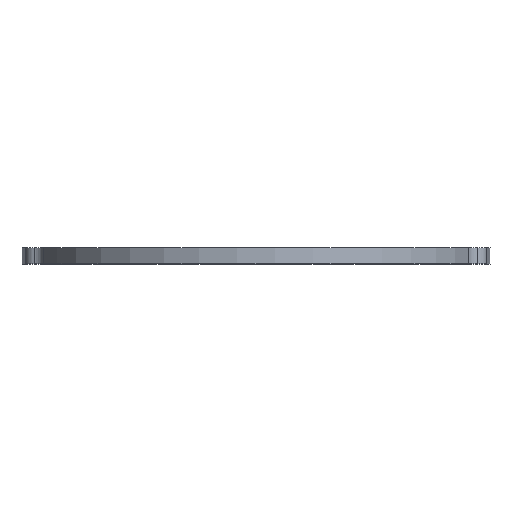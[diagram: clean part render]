
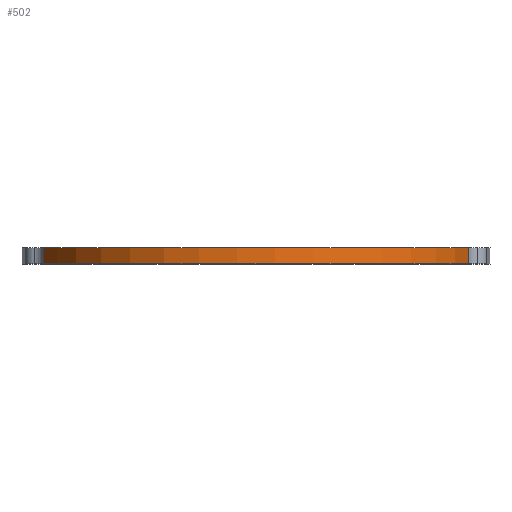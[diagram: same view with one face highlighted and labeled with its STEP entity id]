
A CAD part, top view. The second image highlights one B-rep face of the part: STEP entity #502.
In plain terms, the highlighted cylindrical face has radius 82.55 mm (diameter 165.1 mm), a partial arc.
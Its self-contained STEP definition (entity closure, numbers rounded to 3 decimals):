
#55 = LINE ( 'NONE', #90, #554 ) ;
#80 = CARTESIAN_POINT ( 'NONE',  ( 0., 6., 0. ) ) ;
#87 = DIRECTION ( 'NONE',  ( 0., -1., 0. ) ) ;
#90 = CARTESIAN_POINT ( 'NONE',  ( 79.416, 6., 22.531 ) ) ;
#101 = CIRCLE ( 'NONE', #804, 82.55 ) ;
#106 = AXIS2_PLACEMENT_3D ( 'NONE', #1187, #392, #782 ) ;
#204 = VERTEX_POINT ( 'NONE', #257 ) ;
#247 = VERTEX_POINT ( 'NONE', #1256 ) ;
#257 = CARTESIAN_POINT ( 'NONE',  ( -79.416, 6., 22.531 ) ) ;
#302 = DIRECTION ( 'NONE',  ( 0., 1., 0. ) ) ;
#315 = ORIENTED_EDGE ( 'NONE', *, *, #656, .T. ) ;
#334 = DIRECTION ( 'NONE',  ( 0., -1., 0. ) ) ;
#390 = DIRECTION ( 'NONE',  ( 0., 0., -1. ) ) ;
#392 = DIRECTION ( 'NONE',  ( 0., 1., 0. ) ) ;
#502 = ADVANCED_FACE ( 'NONE', ( #1132 ), #1054, .T. ) ;
#536 = EDGE_CURVE ( 'NONE', #1018, #914, #55, .T. ) ;
#554 = VECTOR ( 'NONE', #1083, 1000. ) ;
#592 = CARTESIAN_POINT ( 'NONE',  ( 79.416, 6., 22.531 ) ) ;
#611 = CARTESIAN_POINT ( 'NONE',  ( 79.416, 0., 22.531 ) ) ;
#636 = CIRCLE ( 'NONE', #106, 82.55 ) ;
#656 = EDGE_CURVE ( 'NONE', #247, #1018, #101, .T. ) ;
#662 = VECTOR ( 'NONE', #334, 1000. ) ;
#679 = ORIENTED_EDGE ( 'NONE', *, *, #536, .T. ) ;
#707 = DIRECTION ( 'NONE',  ( 0., 0., -1. ) ) ;
#782 = DIRECTION ( 'NONE',  ( 0., 0., -1. ) ) ;
#804 = AXIS2_PLACEMENT_3D ( 'NONE', #1090, #302, #707 ) ;
#895 = EDGE_CURVE ( 'NONE', #204, #914, #636, .T. ) ;
#914 = VERTEX_POINT ( 'NONE', #592 ) ;
#1010 = ORIENTED_EDGE ( 'NONE', *, *, #895, .F. ) ;
#1018 = VERTEX_POINT ( 'NONE', #611 ) ;
#1022 = CARTESIAN_POINT ( 'NONE',  ( -79.416, 6., 22.531 ) ) ;
#1054 = CYLINDRICAL_SURFACE ( 'NONE', #1235, 82.55 ) ;
#1083 = DIRECTION ( 'NONE',  ( 0., 1., 0. ) ) ;
#1090 = CARTESIAN_POINT ( 'NONE',  ( 0., 0., 0. ) ) ;
#1132 = FACE_OUTER_BOUND ( 'NONE', #1247, .T. ) ;
#1187 = CARTESIAN_POINT ( 'NONE',  ( 0., 6., 0. ) ) ;
#1197 = LINE ( 'NONE', #1022, #662 ) ;
#1199 = ORIENTED_EDGE ( 'NONE', *, *, #1240, .T. ) ;
#1235 = AXIS2_PLACEMENT_3D ( 'NONE', #80, #87, #390 ) ;
#1240 = EDGE_CURVE ( 'NONE', #204, #247, #1197, .T. ) ;
#1247 = EDGE_LOOP ( 'NONE', ( #315, #679, #1010, #1199 ) ) ;
#1256 = CARTESIAN_POINT ( 'NONE',  ( -79.416, 0., 22.531 ) ) ;
